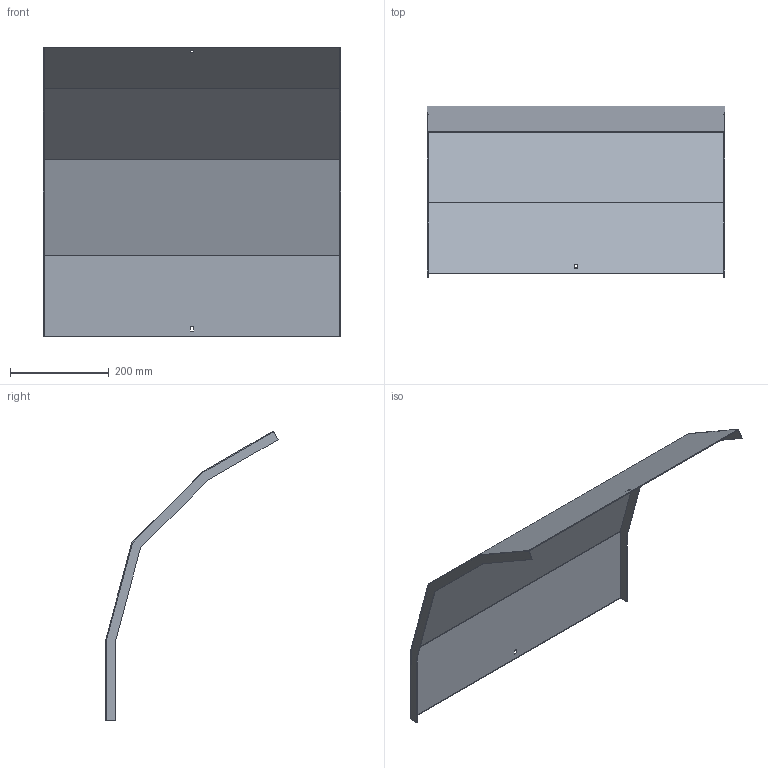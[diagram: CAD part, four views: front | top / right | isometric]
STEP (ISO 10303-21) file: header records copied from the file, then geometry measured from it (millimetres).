
FILE_DESCRIPTION (( 'STEP AP214' ), '1' );
FILE_NAME ('A2_41N3D600.step', '2025-02-21T10:40:11', ( '' ), ( '' ), 'SwSTEP 2.0', 'SolidWorks 2023', '' );
FILE_SCHEMA (( 'AUTOMOTIVE_DESIGN' ));
Length unit declared in the file: millimetre
Products named in the file (1): A2_41N3D600
Bounding box: 603 x 349.52 x 588.06 mm (x, y, z)
Volume: 706230 mm3; surface area: 945803.3 mm2
Topology: 1 solids, 1 shells, 30 faces, 84 edges, 56 vertices
Faces by surface type: plane 30
Entity records: 979 total; most frequent: CARTESIAN_POINT 171, ORIENTED_EDGE 168, DIRECTION 146, LINE 84, EDGE_CURVE 84, VECTOR 84, VERTEX_POINT 56, EDGE_LOOP 34
